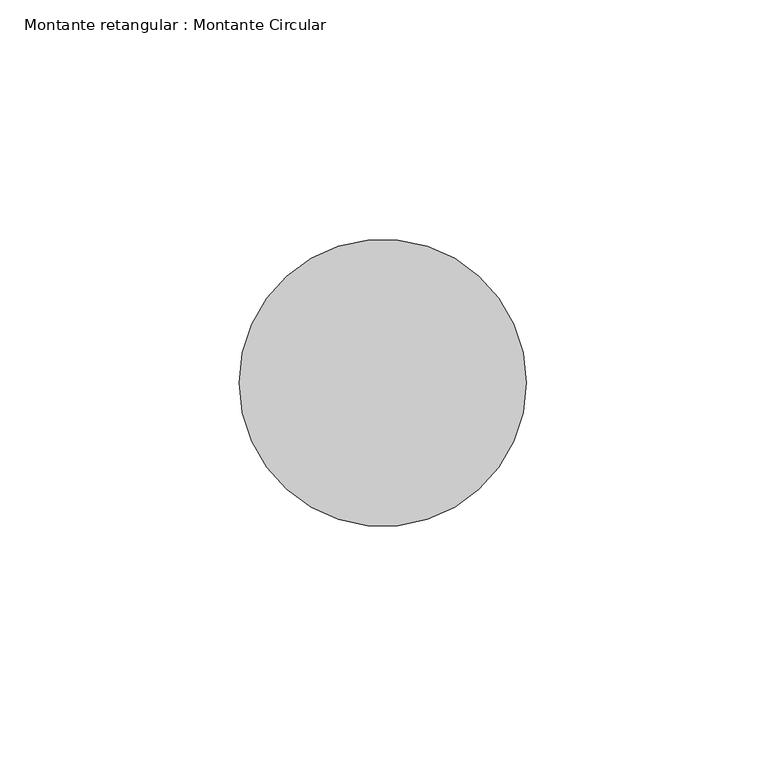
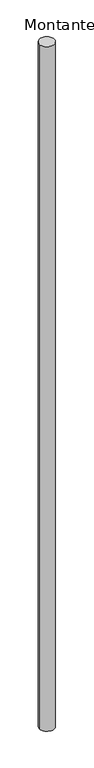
"""IFC4 building model written with IfcOpenShell, lengths in millimetres: member geometry, Montante retangular : Montante Circular."""

import ifcopenshell
import ifcopenshell.guid

model = None  # the IFC model being written
_history = None  # IfcOwnerHistory: only IFC2X3 demands one
_inside = {}  # id of a spatial element -> (the spatial element, [elements in it])
_under = {}  # id of a project, library or spatial element -> (it, [spatial elements below it])
_declared = {}  # id of a project -> (the project, [libraries it declares])
_typed = {}  # id of a type object -> (the type object, [elements of that type])
_made_of = {}  # id of a material, layer set ... -> (it, [elements and type objects made of it])


def new_model(schema):
    """Start an empty IFC model of exactly this schema.

    Asked for "IFC4X3", IfcOpenShell would pick the latest addendum, in which some entities
    have other attributes; the version numbers below select the first issue.
    IFC2X3 requires an IfcOwnerHistory on every rooted entity: one is made here for all.
    """
    global model, _history
    if schema == "IFC4X3":
        model = ifcopenshell.file(schema_version=(4, 3, 0, 0))
    else:
        model = ifcopenshell.file(schema=schema)
    _inside.clear()
    _under.clear()
    _declared.clear()
    _typed.clear()
    _made_of.clear()
    _history = None
    if model.schema == "IFC2X3":
        org = make("IfcOrganization", Name="unknown")
        user = make(
            "IfcPersonAndOrganization",
            ThePerson=make("IfcPerson", FamilyName="unknown"),
            TheOrganization=org,
        )
        app = make(
            "IfcApplication",
            ApplicationDeveloper=org,
            Version="unknown",
            ApplicationFullName="unknown",
            ApplicationIdentifier="unknown",
        )
        _history = make(
            "IfcOwnerHistory",
            OwningUser=user,
            OwningApplication=app,
            ChangeAction="ADDED",
            CreationDate=0,
        )
    return model


def make(cls, **values):
    """One entity of the class cls with the attributes given. An attribute that is None is left unset."""
    return model.create_entity(
        cls, **{name: value for name, value in values.items() if value is not None}
    )


def rooted(cls, **values):
    """An entity with a GlobalId (a new one), such as an element, a storey or a relation."""
    return make(cls, GlobalId=ifcopenshell.guid.new(), OwnerHistory=_history, **values)


def si_unit(unit_type, name, prefix=None):
    """IfcSIUnit, for example si_unit("LENGTHUNIT", "METRE", prefix="MILLI")."""
    return make("IfcSIUnit", UnitType=unit_type, Prefix=prefix, Name=name)


def assignment(units):
    """IfcUnitAssignment: the units of a project."""
    return None if units is None else make("IfcUnitAssignment", Units=units)


def point(xyz):
    """IfcCartesianPoint."""
    return None if xyz is None else make("IfcCartesianPoint", Coordinates=xyz)


def direction(xyz):
    """IfcDirection."""
    return None if xyz is None else make("IfcDirection", DirectionRatios=xyz)


def frame(location, z_axis=None, x_axis=None):
    """IfcAxis2Placement3D, a coordinate frame: its origin and axes. An axis left out is left unset."""
    return make(
        "IfcAxis2Placement3D",
        Location=point(location),
        Axis=direction(z_axis),
        RefDirection=direction(x_axis),
    )


def frame_2d(location, x_axis=None):
    """IfcAxis2Placement2D, a coordinate frame in the plane: its origin and x axis."""
    return make(
        "IfcAxis2Placement2D", Location=point(location), RefDirection=direction(x_axis)
    )


def origin():
    """The frame at (0, 0, 0) with its axes left unset."""
    return frame((0.0, 0.0, 0.0))


def place(relative_to, where):
    """IfcLocalPlacement: puts the frame where relative to a parent placement (None: the world)."""
    return make(
        "IfcLocalPlacement", PlacementRelTo=relative_to, RelativePlacement=where
    )


def context(
    kind, dimensions, precision=None, world=None, true_north=None, identifier=None
):
    """IfcGeometricRepresentationContext, for example the 3D "Model" context."""
    return make(
        "IfcGeometricRepresentationContext",
        ContextIdentifier=identifier,
        ContextType=kind,
        CoordinateSpaceDimension=dimensions,
        Precision=precision,
        WorldCoordinateSystem=world,
        TrueNorth=true_north,
    )


def project(units=None, contexts=None):
    """IfcProject with its units and contexts."""
    return rooted(
        "IfcProject",
        Name="project",
        RepresentationContexts=contexts,
        UnitsInContext=assignment(units),
    )


def spatial(cls, under=None, at=None, **own):
    """A site, building, storey or space (cls), placed at a placement, below another one or the project."""
    s = rooted(cls, ObjectPlacement=at, **own)
    if under is not None:
        _under.setdefault(under.id(), (under, []))[1].append(s)
    return s


def circle_curve(where, radius):
    """IfcCircle in the frame where."""
    return make("IfcCircle", Position=where, Radius=radius)


def trimmed(basis, trim1, trim2, sense, master):
    """IfcTrimmedCurve: the piece of a basis curve between two trims."""
    return make(
        "IfcTrimmedCurve",
        BasisCurve=basis,
        Trim1=trim1,
        Trim2=trim2,
        SenseAgreement=sense,
        MasterRepresentation=master,
    )


def segment(curve, same_sense, transition):
    """IfcCompositeCurveSegment."""
    return make(
        "IfcCompositeCurveSegment",
        Transition=transition,
        SameSense=same_sense,
        ParentCurve=curve,
    )


def composite_curve(segments, self_intersect=None):
    """IfcCompositeCurve: segments joined end to end."""
    return make("IfcCompositeCurve", Segments=segments, SelfIntersect=self_intersect)


def outline(outer, holes=None, kind="AREA"):
    """IfcArbitraryClosedProfileDef: a profile drawn as a closed curve; with holes, ...WithVoids."""
    if holes is None:
        return make("IfcArbitraryClosedProfileDef", ProfileType=kind, OuterCurve=outer)
    return make(
        "IfcArbitraryProfileDefWithVoids",
        ProfileType=kind,
        OuterCurve=outer,
        InnerCurves=holes,
    )


def extrude(swept, where, along, depth):
    """IfcExtrudedAreaSolid: the profile swept, set in the frame where, extruded along a direction by depth."""
    return make(
        "IfcExtrudedAreaSolid",
        SweptArea=swept,
        Position=where,
        ExtrudedDirection=direction(along),
        Depth=depth,
    )


def shape(context_of_items, identifier, shape_type, items):
    """IfcShapeRepresentation: the items that make up one representation, for example the "Body"."""
    return make(
        "IfcShapeRepresentation",
        ContextOfItems=context_of_items,
        RepresentationIdentifier=identifier,
        RepresentationType=shape_type,
        Items=items,
    )


def source(mapping_origin, context_of_items, identifier, shape_type, items):
    """IfcRepresentationMap: a shape defined once, which mapped items show again and again."""
    return make(
        "IfcRepresentationMap",
        MappingOrigin=mapping_origin,
        MappedRepresentation=shape(context_of_items, identifier, shape_type, items),
    )


def transform(
    local_origin,
    x_axis=None,
    y_axis=None,
    z_axis=None,
    scale=None,
    scale2=None,
    scale3=None,
    uniform=True,
):
    """IfcCartesianTransformationOperator3D, or its non-uniform kind. x_axis, y_axis, z_axis: its Axis1, 2, 3."""
    if uniform:
        return make(
            "IfcCartesianTransformationOperator3D",
            Axis1=direction(x_axis),
            Axis2=direction(y_axis),
            LocalOrigin=point(local_origin),
            Scale=scale,
            Axis3=direction(z_axis),
        )
    return make(
        "IfcCartesianTransformationOperator3DnonUniform",
        Axis1=direction(x_axis),
        Axis2=direction(y_axis),
        LocalOrigin=point(local_origin),
        Scale=scale,
        Axis3=direction(z_axis),
        Scale2=scale2,
        Scale3=scale3,
    )


def mapped(mapping_source, mapping_target):
    """IfcMappedItem: shows the shape of a source again, moved by a transform."""
    return make(
        "IfcMappedItem", MappingSource=mapping_source, MappingTarget=mapping_target
    )


def made_of(thing, what):
    """Note that an element or type object is made of a material, layer set ...; save() writes the relation."""
    if what is not None:
        _made_of.setdefault(what.id(), (what, []))[1].append(thing)
    return thing


def element(
    cls,
    number,
    at=None,
    inside=None,
    cuts=None,
    type_object=None,
    material=None,
    context=None,
    identifier="Body",
    shape_type=None,
    held_by="IfcProductDefinitionShape",
    body=None,
    shapes=None,
    **own,
):
    """One element of the class cls, such as IfcWall. Its Tag is "e" and its number.

    at: its placement. inside: the storey or other place that contains it. cuts: it is an
    opening in that element (IfcRelVoidsElement). A single representation is given by context,
    identifier, shape_type and body (its items); several are given by shapes. held_by: the class
    of the entity that holds the representations. save() writes the other relations.
    """
    e = rooted(cls, Tag="e%d" % number, ObjectPlacement=at, **own)
    if body is not None:
        shapes = [shape(context, identifier, shape_type, body)]
    if shapes is not None:
        e.Representation = make(held_by, Representations=shapes)
    if inside is not None:
        _inside.setdefault(inside.id(), (inside, []))[1].append(e)
    if cuts is not None:
        rooted(
            "IfcRelVoidsElement", RelatingBuildingElement=cuts, RelatedOpeningElement=e
        )
    if type_object is not None:
        _typed.setdefault(type_object.id(), (type_object, []))[1].append(e)
    return made_of(e, material)


def aggregate(whole, parts):
    """IfcRelAggregates: a whole, such as a stair, and the parts it consists of."""
    return rooted("IfcRelAggregates", RelatingObject=whole, RelatedObjects=parts)


def save(model, path):
    """Write the relations noted so far, then the file.

    IfcRelAggregates (storeys below a building ...), IfcRelContainedInSpatialStructure (elements
    in a storey), IfcRelDefinesByType, IfcRelAssociatesMaterial and IfcRelDeclares: one each for
    every whole, place, type object, material and project.
    """
    for whole, parts in _under.values():
        aggregate(whole, parts)
    for where, things in _inside.values():
        rooted(
            "IfcRelContainedInSpatialStructure",
            RelatedElements=things,
            RelatingStructure=where,
        )
    for kind, things in _typed.values():
        rooted("IfcRelDefinesByType", RelatedObjects=things, RelatingType=kind)
    for what, things in _made_of.values():
        rooted("IfcRelAssociatesMaterial", RelatedObjects=things, RelatingMaterial=what)
    for by, libraries in _declared.values():
        rooted("IfcRelDeclares", RelatingContext=by, RelatedDefinitions=libraries)
    model.write(path)


def montante_retangular_montante_circular_c74c38fd(model_context):
    return source(origin(), model_context, "Body", "SweptSolid", [
        extrude(outline(composite_curve([segment(trimmed(circle_curve(frame_2d((-30.0, 0.0)), 30.0), [point((0.0, 0.0))], [point((-60.0, 0.0))], False, "CARTESIAN"), True, "CONTINUOUS"), segment(trimmed(circle_curve(frame_2d((-30.0, 0.0)), 30.0), [point((-60.0, 0.0))], [point((0.0, 0.0))], False, "CARTESIAN"), True, "CONTINUOUS")], self_intersect=False)), frame((0.0, 0.0, -2880.0000003), z_axis=(0.0, 0.0, 1.0), x_axis=(1.0, 0.0, 0.0)), (0.0, 0.0, 1.0), 2880.0000003),
    ])


if __name__ == "__main__":
    model = new_model("IFC4")
    model_context = context("Model", 3, world=origin())
    ifc_project = project(units=[si_unit("LENGTHUNIT", "METRE", prefix="MILLI")], contexts=[model_context])
    site = spatial("IfcSite", under=ifc_project)
    building = spatial("IfcBuilding", under=site)
    placement = place(None, origin())
    montante_retangular_montante_circular_shape = montante_retangular_montante_circular_c74c38fd(model_context)
    element("IfcMember", 1, ObjectType="Montante retangular : Montante Circular", at=placement, inside=building, context=model_context, shape_type="MappedRepresentation", body=[
        mapped(montante_retangular_montante_circular_shape, transform((0.0, 0.0, 0.0), x_axis=(1.0, 0.0, 0.0), y_axis=(0.0, 1.0, 0.0), z_axis=(0.0, 0.0, 1.0))),
    ])
    save(model, "model.ifc")
